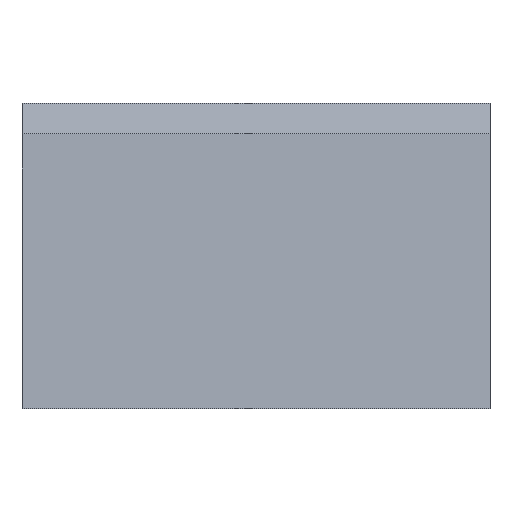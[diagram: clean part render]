
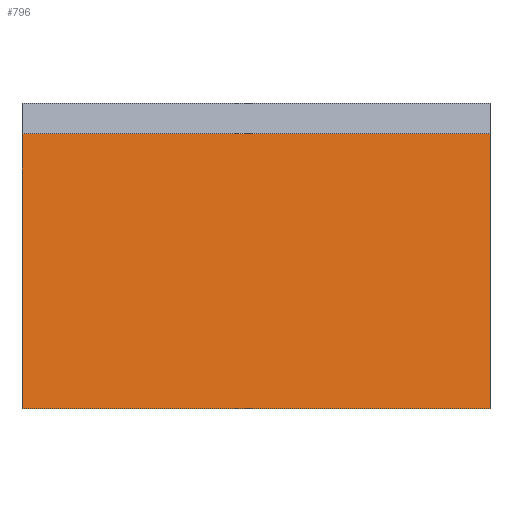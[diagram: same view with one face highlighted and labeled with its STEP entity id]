
A CAD part, front view. The second image highlights one B-rep face of the part: STEP entity #796.
In plain terms, the highlighted planar face has unit normal (0, -0.995, 0.104).
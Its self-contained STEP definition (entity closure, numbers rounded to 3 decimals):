
#32 = PLANE('',#33);
#33 = AXIS2_PLACEMENT_3D('',#34,#35,#36);
#34 = CARTESIAN_POINT('',(-29.,10.882,-104.5));
#35 = DIRECTION('',(1.,-0.,-0.));
#36 = DIRECTION('',(0.,0.,-1.));
#169 = VERTEX_POINT('',#170);
#170 = CARTESIAN_POINT('',(-29.,11.516,-88.));
#184 = PLANE('',#185);
#185 = AXIS2_PLACEMENT_3D('',#186,#187,#188);
#186 = CARTESIAN_POINT('',(-400.,400.,-88.));
#187 = DIRECTION('',(0.,0.,1.));
#188 = DIRECTION('',(-1.,0.,0.));
#196 = EDGE_CURVE('',#169,#197,#199,.T.);
#197 = VERTEX_POINT('',#198);
#198 = CARTESIAN_POINT('',(-29.,14.354,-61.));
#199 = SURFACE_CURVE('',#200,(#204,#211),.PCURVE_S1.);
#200 = LINE('',#201,#202);
#201 = CARTESIAN_POINT('',(-29.,5.21,-148.));
#202 = VECTOR('',#203,1.);
#203 = DIRECTION('',(-0.,0.105,0.995));
#204 = PCURVE('',#32,#205);
#205 = DEFINITIONAL_REPRESENTATION('',(#206),#210);
#206 = LINE('',#207,#208);
#207 = CARTESIAN_POINT('',(43.5,-5.672));
#208 = VECTOR('',#209,1.);
#209 = DIRECTION('',(-0.995,0.105));
#210 = ( GEOMETRIC_REPRESENTATION_CONTEXT(2) 
PARAMETRIC_REPRESENTATION_CONTEXT() REPRESENTATION_CONTEXT('2D SPACE',''
  ) );
#211 = PCURVE('',#212,#217);
#212 = PLANE('',#213);
#213 = AXIS2_PLACEMENT_3D('',#214,#215,#216);
#214 = CARTESIAN_POINT('',(-29.,5.21,-148.));
#215 = DIRECTION('',(0.,0.995,-0.105));
#216 = DIRECTION('',(0.,-0.105,-0.995));
#217 = DEFINITIONAL_REPRESENTATION('',(#218),#222);
#218 = LINE('',#219,#220);
#219 = CARTESIAN_POINT('',(-0.,0.));
#220 = VECTOR('',#221,1.);
#221 = DIRECTION('',(-1.,0.));
#222 = ( GEOMETRIC_REPRESENTATION_CONTEXT(2) 
PARAMETRIC_REPRESENTATION_CONTEXT() REPRESENTATION_CONTEXT('2D SPACE',''
  ) );
#240 = PLANE('',#241);
#241 = AXIS2_PLACEMENT_3D('',#242,#243,#244);
#242 = CARTESIAN_POINT('',(-29.,14.354,-61.));
#243 = DIRECTION('',(-0.,-0.,-1.));
#244 = DIRECTION('',(0.,-1.,0.));
#519 = PLANE('',#520);
#520 = AXIS2_PLACEMENT_3D('',#521,#522,#523);
#521 = CARTESIAN_POINT('',(17.,10.882,-104.5));
#522 = DIRECTION('',(1.,-0.,-0.));
#523 = DIRECTION('',(0.,0.,-1.));
#751 = EDGE_CURVE('',#197,#752,#754,.T.);
#752 = VERTEX_POINT('',#753);
#753 = CARTESIAN_POINT('',(17.,14.354,-61.));
#754 = SURFACE_CURVE('',#755,(#759,#766),.PCURVE_S1.);
#755 = LINE('',#756,#757);
#756 = CARTESIAN_POINT('',(-29.,14.354,-61.));
#757 = VECTOR('',#758,1.);
#758 = DIRECTION('',(1.,-0.,-0.));
#759 = PCURVE('',#240,#760);
#760 = DEFINITIONAL_REPRESENTATION('',(#761),#765);
#761 = LINE('',#762,#763);
#762 = CARTESIAN_POINT('',(-0.,0.));
#763 = VECTOR('',#764,1.);
#764 = DIRECTION('',(-0.,-1.));
#765 = ( GEOMETRIC_REPRESENTATION_CONTEXT(2) 
PARAMETRIC_REPRESENTATION_CONTEXT() REPRESENTATION_CONTEXT('2D SPACE',''
  ) );
#766 = PCURVE('',#212,#767);
#767 = DEFINITIONAL_REPRESENTATION('',(#768),#772);
#768 = LINE('',#769,#770);
#769 = CARTESIAN_POINT('',(-87.479,0.));
#770 = VECTOR('',#771,1.);
#771 = DIRECTION('',(-0.,-1.));
#772 = ( GEOMETRIC_REPRESENTATION_CONTEXT(2) 
PARAMETRIC_REPRESENTATION_CONTEXT() REPRESENTATION_CONTEXT('2D SPACE',''
  ) );
#796 = ADVANCED_FACE('',(#797),#212,.F.);
#797 = FACE_BOUND('',#798,.T.);
#798 = EDGE_LOOP('',(#799,#800,#823,#844));
#799 = ORIENTED_EDGE('',*,*,#196,.F.);
#800 = ORIENTED_EDGE('',*,*,#801,.F.);
#801 = EDGE_CURVE('',#802,#169,#804,.T.);
#802 = VERTEX_POINT('',#803);
#803 = CARTESIAN_POINT('',(17.,11.516,-88.));
#804 = SURFACE_CURVE('',#805,(#809,#816),.PCURVE_S1.);
#805 = LINE('',#806,#807);
#806 = CARTESIAN_POINT('',(-214.5,11.516,-88.));
#807 = VECTOR('',#808,1.);
#808 = DIRECTION('',(-1.,-0.,0.));
#809 = PCURVE('',#212,#810);
#810 = DEFINITIONAL_REPRESENTATION('',(#811),#815);
#811 = LINE('',#812,#813);
#812 = CARTESIAN_POINT('',(-60.33,185.5));
#813 = VECTOR('',#814,1.);
#814 = DIRECTION('',(-0.,1.));
#815 = ( GEOMETRIC_REPRESENTATION_CONTEXT(2) 
PARAMETRIC_REPRESENTATION_CONTEXT() REPRESENTATION_CONTEXT('2D SPACE',''
  ) );
#816 = PCURVE('',#184,#817);
#817 = DEFINITIONAL_REPRESENTATION('',(#818),#822);
#818 = LINE('',#819,#820);
#819 = CARTESIAN_POINT('',(-185.5,388.484));
#820 = VECTOR('',#821,1.);
#821 = DIRECTION('',(1.,-0.));
#822 = ( GEOMETRIC_REPRESENTATION_CONTEXT(2) 
PARAMETRIC_REPRESENTATION_CONTEXT() REPRESENTATION_CONTEXT('2D SPACE',''
  ) );
#823 = ORIENTED_EDGE('',*,*,#824,.T.);
#824 = EDGE_CURVE('',#802,#752,#825,.T.);
#825 = SURFACE_CURVE('',#826,(#830,#837),.PCURVE_S1.);
#826 = LINE('',#827,#828);
#827 = CARTESIAN_POINT('',(17.,5.21,-148.));
#828 = VECTOR('',#829,1.);
#829 = DIRECTION('',(-0.,0.105,0.995));
#830 = PCURVE('',#212,#831);
#831 = DEFINITIONAL_REPRESENTATION('',(#832),#836);
#832 = LINE('',#833,#834);
#833 = CARTESIAN_POINT('',(-0.,-46.));
#834 = VECTOR('',#835,1.);
#835 = DIRECTION('',(-1.,0.));
#836 = ( GEOMETRIC_REPRESENTATION_CONTEXT(2) 
PARAMETRIC_REPRESENTATION_CONTEXT() REPRESENTATION_CONTEXT('2D SPACE',''
  ) );
#837 = PCURVE('',#519,#838);
#838 = DEFINITIONAL_REPRESENTATION('',(#839),#843);
#839 = LINE('',#840,#841);
#840 = CARTESIAN_POINT('',(43.5,-5.672));
#841 = VECTOR('',#842,1.);
#842 = DIRECTION('',(-0.995,0.105));
#843 = ( GEOMETRIC_REPRESENTATION_CONTEXT(2) 
PARAMETRIC_REPRESENTATION_CONTEXT() REPRESENTATION_CONTEXT('2D SPACE',''
  ) );
#844 = ORIENTED_EDGE('',*,*,#751,.F.);
